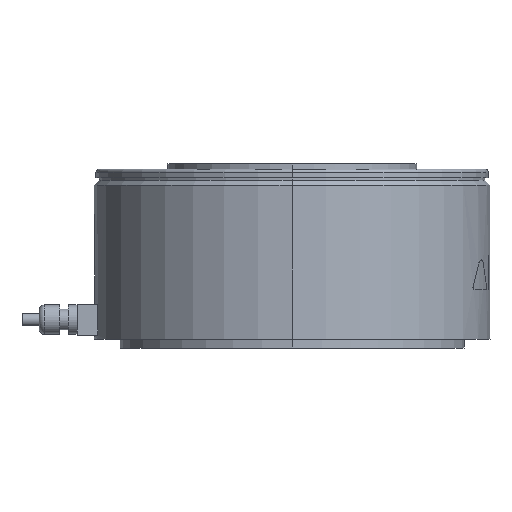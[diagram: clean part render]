
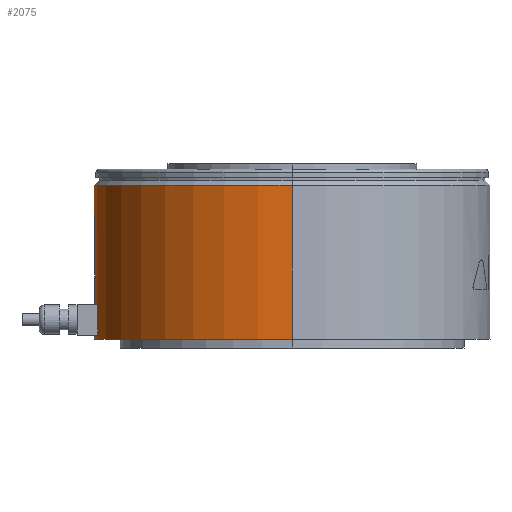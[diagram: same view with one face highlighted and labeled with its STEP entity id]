
A CAD part, left-side view. The second image highlights one B-rep face of the part: STEP entity #2075.
In plain terms, the highlighted cylindrical face has radius 115 mm (diameter 230 mm), a partial arc.
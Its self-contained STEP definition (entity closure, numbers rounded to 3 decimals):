
#34 = FACE_BOUND ( 'NONE', #6736, .T. ) ;
#36 = CYLINDRICAL_SURFACE ( 'NONE', #3148, 115. ) ;
#42 = FACE_OUTER_BOUND ( 'NONE', #6743, .T. ) ;
#1184 = CARTESIAN_POINT ( 'NONE',  ( -21.75, 112.924, 25.5 ) ) ;
#1190 = CARTESIAN_POINT ( 'NONE',  ( -21.75, 112.924, 7.5 ) ) ;
#1199 = CARTESIAN_POINT ( 'NONE',  ( 21.75, 112.924, 7.5 ) ) ;
#1209 = CARTESIAN_POINT ( 'NONE',  ( -115., 0., 5. ) ) ;
#1218 = CARTESIAN_POINT ( 'NONE',  ( -115., 0., 94.5 ) ) ;
#1223 = CARTESIAN_POINT ( 'NONE',  ( 21.75, 112.924, 25.5 ) ) ;
#1228 = CARTESIAN_POINT ( 'NONE',  ( 115., 0., 94.5 ) ) ;
#1250 = CARTESIAN_POINT ( 'NONE',  ( 115., 0., 5. ) ) ;
#1570 = EDGE_CURVE ( 'NONE', #4193, #4203, #3045, .T. ) ;
#2075 = ADVANCED_FACE ( 'NONE', ( #34, #42 ), #36, .T. ) ;
#3045 = CIRCLE ( 'NONE', #3093, 115. ) ;
#3093 = AXIS2_PLACEMENT_3D ( 'NONE', #3358, #3360, #3362 ) ;
#3148 = AXIS2_PLACEMENT_3D ( 'NONE', #3869, #3868, #3867 ) ;
#3358 = CARTESIAN_POINT ( 'NONE',  ( 0., 0., 94.5 ) ) ;
#3360 = DIRECTION ( 'NONE',  ( 0., 0., -1. ) ) ;
#3362 = DIRECTION ( 'NONE',  ( -1., 0., 0. ) ) ;
#3565 = AXIS2_PLACEMENT_3D ( 'NONE', #7113, #7121, #7122 ) ;
#3573 = AXIS2_PLACEMENT_3D ( 'NONE', #7172, #6262, #6263 ) ;
#3576 = AXIS2_PLACEMENT_3D ( 'NONE', #7183, #6265, #6266 ) ;
#3704 = CARTESIAN_POINT ( 'NONE',  ( -115., 0., 0. ) ) ;
#3707 = CARTESIAN_POINT ( 'NONE',  ( 115., 0., 0. ) ) ;
#3708 = DIRECTION ( 'NONE',  ( 0., 0., -1. ) ) ;
#3716 = DIRECTION ( 'NONE',  ( 0., 0., -1. ) ) ;
#3867 = DIRECTION ( 'NONE',  ( -1., 0., 0. ) ) ;
#3868 = DIRECTION ( 'NONE',  ( 0., 0., -1. ) ) ;
#3869 = CARTESIAN_POINT ( 'NONE',  ( 0., 0., 0. ) ) ;
#4163 = VERTEX_POINT ( 'NONE', #1184 ) ;
#4165 = VERTEX_POINT ( 'NONE', #1190 ) ;
#4174 = VERTEX_POINT ( 'NONE', #1199 ) ;
#4184 = VERTEX_POINT ( 'NONE', #1209 ) ;
#4193 = VERTEX_POINT ( 'NONE', #1218 ) ;
#4198 = VERTEX_POINT ( 'NONE', #1223 ) ;
#4203 = VERTEX_POINT ( 'NONE', #1228 ) ;
#4225 = VERTEX_POINT ( 'NONE', #1250 ) ;
#4315 = ORIENTED_EDGE ( 'NONE', *, *, #5312, .T. ) ;
#4316 = ORIENTED_EDGE ( 'NONE', *, *, #5317, .T. ) ;
#4317 = ORIENTED_EDGE ( 'NONE', *, *, #5296, .T. ) ;
#4318 = ORIENTED_EDGE ( 'NONE', *, *, #5314, .T. ) ;
#4319 = ORIENTED_EDGE ( 'NONE', *, *, #1570, .T. ) ;
#4320 = ORIENTED_EDGE ( 'NONE', *, *, #5419, .T. ) ;
#4321 = ORIENTED_EDGE ( 'NONE', *, *, #5313, .F. ) ;
#4322 = ORIENTED_EDGE ( 'NONE', *, *, #5423, .F. ) ;
#5296 = EDGE_CURVE ( 'NONE', #4165, #4174, #5892, .T. ) ;
#5312 = EDGE_CURVE ( 'NONE', #4198, #4163, #5911, .T. ) ;
#5313 = EDGE_CURVE ( 'NONE', #4184, #4225, #5913, .T. ) ;
#5314 = EDGE_CURVE ( 'NONE', #4174, #4198, #5907, .T. ) ;
#5317 = EDGE_CURVE ( 'NONE', #4163, #4165, #5912, .T. ) ;
#5419 = EDGE_CURVE ( 'NONE', #4203, #4225, #7415, .T. ) ;
#5423 = EDGE_CURVE ( 'NONE', #4193, #4184, #7453, .T. ) ;
#5892 = CIRCLE ( 'NONE', #3565, 115. ) ;
#5907 = LINE ( 'NONE', #6267, #5910 ) ;
#5910 = VECTOR ( 'NONE', #6268, 1000. ) ;
#5911 = CIRCLE ( 'NONE', #3573, 115. ) ;
#5912 = LINE ( 'NONE', #6275, #5918 ) ;
#5913 = CIRCLE ( 'NONE', #3576, 115. ) ;
#5918 = VECTOR ( 'NONE', #6276, 1000. ) ;
#6262 = DIRECTION ( 'NONE',  ( 0., 0., 1. ) ) ;
#6263 = DIRECTION ( 'NONE',  ( -1., 0., 0. ) ) ;
#6265 = DIRECTION ( 'NONE',  ( 0., 0., -1. ) ) ;
#6266 = DIRECTION ( 'NONE',  ( -1., 0., 0. ) ) ;
#6267 = CARTESIAN_POINT ( 'NONE',  ( 21.75, 112.924, 0. ) ) ;
#6268 = DIRECTION ( 'NONE',  ( 0., 0., 1. ) ) ;
#6275 = CARTESIAN_POINT ( 'NONE',  ( -21.75, 112.924, 0. ) ) ;
#6276 = DIRECTION ( 'NONE',  ( 0., 0., -1. ) ) ;
#6736 = EDGE_LOOP ( 'NONE', ( #4315, #4316, #4317, #4318 ) ) ;
#6743 = EDGE_LOOP ( 'NONE', ( #4319, #4320, #4321, #4322 ) ) ;
#7113 = CARTESIAN_POINT ( 'NONE',  ( 0., 0., 7.5 ) ) ;
#7121 = DIRECTION ( 'NONE',  ( 0., 0., -1. ) ) ;
#7122 = DIRECTION ( 'NONE',  ( 1., 0., 0. ) ) ;
#7172 = CARTESIAN_POINT ( 'NONE',  ( 0., 0., 25.5 ) ) ;
#7183 = CARTESIAN_POINT ( 'NONE',  ( 0., 0., 5. ) ) ;
#7415 = LINE ( 'NONE', #3707, #7441 ) ;
#7441 = VECTOR ( 'NONE', #3708, 1000. ) ;
#7453 = LINE ( 'NONE', #3704, #7455 ) ;
#7455 = VECTOR ( 'NONE', #3716, 1000. ) ;
